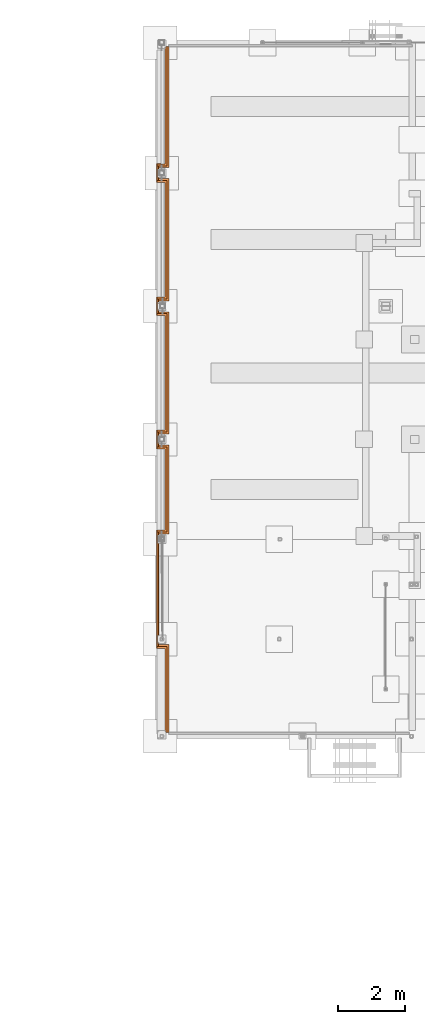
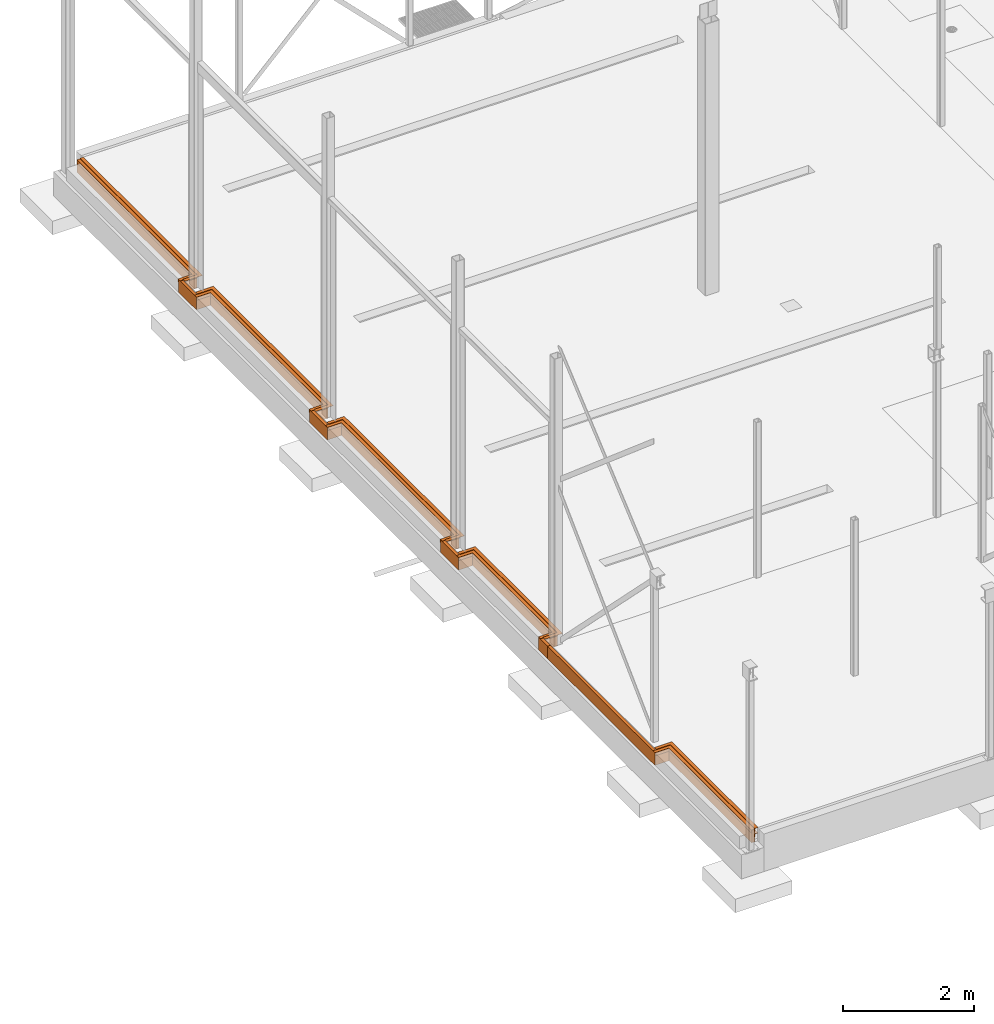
# One storey, part 18 of 18: 13 proxies.
"""IFC2X3 building model written with IfcOpenShell, lengths in millimetres."""

from ifc_helpers import new_model, entity, si_unit, converted_unit, derived_unit, direction, frame, origin, place, context, subcontext, project, spatial, faceted_brep, element, save


model = new_model("IFC2X3")

# Units and contexts
model_context = context("Model", 3, precision=0.01, world=origin(), true_north=direction((6.12303176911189e-17, 1.0)))
body_context = subcontext(model_context, "Body", "Model", "MODEL_VIEW")
ifc_project = project(units=[si_unit("LENGTHUNIT", "METRE", prefix="MILLI"), si_unit("AREAUNIT", "SQUARE_METRE"), si_unit("VOLUMEUNIT", "CUBIC_METRE"), converted_unit("PLANEANGLEUNIT", "DEGREE", entity("IfcRatioMeasure", 0.0174532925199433), si_unit("PLANEANGLEUNIT", "RADIAN"), dimensions=[0, 0, 0, 0, 0, 0, 0]), si_unit("MASSUNIT", "GRAM", prefix="KILO"), derived_unit("MASSDENSITYUNIT", [(si_unit("MASSUNIT", "GRAM", prefix="KILO"), 1), (si_unit("LENGTHUNIT", "METRE"), -3)]), si_unit("TIMEUNIT", "SECOND"), si_unit("FREQUENCYUNIT", "HERTZ"), si_unit("THERMODYNAMICTEMPERATUREUNIT", "DEGREE_CELSIUS"), derived_unit("THERMALTRANSMITTANCEUNIT", [(si_unit("MASSUNIT", "GRAM", prefix="KILO"), 1), (si_unit("THERMODYNAMICTEMPERATUREUNIT", "KELVIN"), -1), (si_unit("TIMEUNIT", "SECOND"), -3)]), derived_unit("VOLUMETRICFLOWRATEUNIT", [(si_unit("LENGTHUNIT", "METRE"), 3), (si_unit("TIMEUNIT", "SECOND"), -1)]), si_unit("ELECTRICCURRENTUNIT", "AMPERE"), si_unit("ELECTRICVOLTAGEUNIT", "VOLT"), si_unit("POWERUNIT", "WATT"), si_unit("FORCEUNIT", "NEWTON", prefix="KILO"), si_unit("ILLUMINANCEUNIT", "LUX"), si_unit("LUMINOUSFLUXUNIT", "LUMEN"), si_unit("LUMINOUSINTENSITYUNIT", "CANDELA"), derived_unit("USERDEFINED", [(si_unit("MASSUNIT", "GRAM", prefix="KILO"), -1), (si_unit("LENGTHUNIT", "METRE"), -2), (si_unit("TIMEUNIT", "SECOND"), 3), (si_unit("LUMINOUSFLUXUNIT", "LUMEN"), 1)]), derived_unit("LINEARVELOCITYUNIT", [(si_unit("LENGTHUNIT", "METRE"), 1), (si_unit("TIMEUNIT", "SECOND"), -1)]), si_unit("PRESSUREUNIT", "PASCAL"), derived_unit("USERDEFINED", [(si_unit("LENGTHUNIT", "METRE"), -2), (si_unit("MASSUNIT", "GRAM", prefix="KILO"), 1), (si_unit("TIMEUNIT", "SECOND"), -2)])], contexts=[model_context])

# Site, building, storey
site_placement = place(None, frame((0.0, 0.0, 101000.0)))
site = spatial("IfcSite", under=ifc_project, at=site_placement, Name="Default", CompositionType="ELEMENT")
building_placement = place(site_placement, origin())
building = spatial("IfcBuilding", under=site, at=building_placement, CompositionType="ELEMENT")
storey_placement = place(building_placement, origin())
storey = spatial("IfcBuildingStorey", under=building, at=storey_placement, Name="01", CompositionType="ELEMENT", Elevation=8.9295595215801e-10)

# Proxies
proxy_1_placement = place(storey_placement, frame((3610.98233689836, 29417.9507529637, -250.0)))
element("IfcBuildingElementProxy", 1, at=proxy_1_placement, inside=storey, Name="Slab Edge:50x235", ObjectType="Slab Edge:50x235", context=body_context, shape_type="Brep", body=[
    faceted_brep([(50.0, 3225.0, 235.0), (0.0, 3275.0, 235.0), (0.0, 2725.0, 235.0), (50.0, 2775.0, 235.0), (50.0, 2775.0, 190.0), (50.0, 2775.0, 90.0), (50.0, 2775.0, 0.0), (50.0, 3225.0, 0.0), (50.0, 3225.0, 90.0), (50.0, 3225.0, 190.0), (0.0, 3275.0, 0.0), (0.0, 2725.0, 0.0), (50.0, 7225.0, 235.0), (0.0, 7275.0, 235.0), (0.0, 6725.0, 235.0), (50.0, 6775.0, 235.0), (50.0, 6775.0, 190.0), (50.0, 6775.0, 90.0), (50.0, 6775.0, 0.0), (50.0, 7225.0, 0.0), (50.0, 7225.0, 90.0), (50.0, 7225.0, 190.0), (0.0, 7275.0, 0.0), (0.0, 6725.0, 0.0), (300.282160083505, 225.0, 235.0), (250.282160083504, 275.0, 235.0), (0.0, 275.0, 235.0), (50.0, 225.0, 235.0), (50.0, 225.0, 190.0), (50.0, 225.0, 90.0), (50.0, 225.0, 0.0), (300.2821600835, 225.0, 0.0), (300.282160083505, 225.0, 90.0), (300.282160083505, 225.0, 190.0), (250.282160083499, 275.0, 0.0), (0.0, 275.0, 0.0), (250.282160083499, 2725.0, 235.0), (300.282160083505, 2775.0, 235.0), (300.282160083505, 2775.0, 190.0), (300.282160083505, 2775.0, 90.0), (300.282160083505, 2775.0, 0.0), (250.282160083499, 2725.0, 0.0), (300.2821600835, 3225.0, 235.0), (250.282160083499, 3275.0, 235.0), (300.282160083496, 3225.0, 0.0), (300.2821600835, 3225.0, 90.0), (300.2821600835, 3225.0, 190.0), (250.282160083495, 3275.0, 0.0), (300.2821600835, 6775.0, 235.0), (250.2821600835, 6725.0, 235.0), (300.282160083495, 6775.0, 0.0), (300.2821600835, 6775.0, 90.0), (300.2821600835, 6775.0, 190.0), (250.282160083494, 6725.0, 0.0), (300.282160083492, 7225.0, 235.0), (250.282160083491, 7275.0, 235.0), (300.282160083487, 7225.0, 0.0), (300.282160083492, 7225.0, 90.0), (300.282160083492, 7225.0, 190.0), (250.282160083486, 7275.0, 0.0), (300.282160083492, 10775.0, 235.0), (250.282160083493, 10725.0, 235.0), (300.282160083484, 10775.0, 0.0), (300.282160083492, 10775.0, 90.0), (300.282160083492, 10775.0, 190.0), (250.282160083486, 10725.0, 0.0), (50.0, 10775.0, 235.0), (0.0, 10725.0, 235.0), (50.0, 10775.0, 0.0), (50.0, 10775.0, 90.0), (50.0, 10775.0, 190.0), (0.0, 10725.0, 0.0), (50.0, 11225.0, 235.0), (0.0, 11275.0, 235.0), (50.0, 11225.0, 0.0), (50.0, 11225.0, 90.0), (50.0, 11225.0, 190.0), (0.0, 11275.0, 0.0), (300.282160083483, 11225.0, 235.0), (250.282160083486, 11275.0, 235.0), (300.282160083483, 11225.0, 0.0), (300.282160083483, 11225.0, 90.0), (300.282160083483, 11225.0, 190.0), (250.282160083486, 11275.0, 0.0), (250.282160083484, 14800.0, 235.0), (300.282160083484, 14800.0, 235.0), (300.282160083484, 14800.0, 190.0), (300.282160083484, 14800.0, 90.0), (300.282160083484, 14800.0, 0.0), (250.282160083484, 14800.0, 0.0), (50.0, 0.0, 235.0), (0.0, 0.0, 235.0), (0.0, 0.0, 0.0), (50.0, 0.0, 0.0), (50.0, 0.0, 90.0)], [[[0, 1, 2, 3]], [[0, 3, 4, 5, 6, 7, 8, 9]], [[10, 7, 6, 11]], [[1, 10, 11, 2]], [[12, 13, 14, 15]], [[12, 15, 16, 17, 18, 19, 20, 21]], [[22, 19, 18, 23]], [[13, 22, 23, 14]], [[24, 25, 26, 27]], [[24, 27, 28, 29, 30, 31, 32, 33]], [[34, 31, 30, 35]], [[25, 34, 35, 26]], [[3, 2, 36, 37]], [[3, 37, 38, 39, 40, 6, 5, 4]], [[11, 6, 40, 41]], [[2, 11, 41, 36]], [[1, 0, 42, 43]], [[42, 0, 9, 8, 7, 44, 45, 46]], [[7, 10, 47, 44]], [[10, 1, 43, 47]], [[43, 42, 48, 49]], [[48, 42, 46, 45, 44, 50, 51, 52]], [[44, 47, 53, 50]], [[47, 43, 49, 53]], [[49, 48, 15, 14]], [[15, 48, 52, 51, 50, 18, 17, 16]], [[50, 53, 23, 18]], [[53, 49, 14, 23]], [[13, 12, 54, 55]], [[54, 12, 21, 20, 19, 56, 57, 58]], [[19, 22, 59, 56]], [[22, 13, 55, 59]], [[55, 54, 60, 61]], [[60, 54, 58, 57, 56, 62, 63, 64]], [[56, 59, 65, 62]], [[59, 55, 61, 65]], [[61, 60, 66, 67]], [[66, 60, 64, 63, 62, 68, 69, 70]], [[62, 65, 71, 68]], [[65, 61, 67, 71]], [[67, 66, 72, 73]], [[72, 66, 70, 69, 68, 74, 75, 76]], [[68, 71, 77, 74]], [[71, 67, 73, 77]], [[73, 72, 78, 79]], [[78, 72, 76, 75, 74, 80, 81, 82]], [[74, 77, 83, 80]], [[77, 73, 79, 83]], [[84, 85, 86, 87, 88, 89]], [[79, 78, 85, 84]], [[85, 78, 82, 81, 80, 88, 87, 86]], [[80, 83, 89, 88]], [[83, 79, 84, 89]], [[25, 24, 37, 36]], [[37, 24, 33, 32, 31, 40, 39, 38]], [[31, 34, 41, 40]], [[34, 25, 36, 41]], [[90, 91, 92, 93, 94]], [[27, 26, 91, 90]], [[27, 90, 94, 93, 30, 29, 28]], [[35, 30, 93, 92]], [[26, 35, 92, 91]]]),
])
proxy_2_placement = place(storey_placement, frame((3610.98233689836, 36638.9507529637, -69.0)))
element("IfcBuildingElementProxy", 2, at=proxy_2_placement, inside=storey, Name="Slab Edge:L-PROFIL", ObjectType="Slab Edge:L-PROFIL", context=body_context, shape_type="Brep", body=[
    faceted_brep([(0.0, 3498.0, 60.0), (0.0, 3558.0, 60.0), (0.0, 3558.0, 55.0), (0.0, 3503.0, 55.0), (0.0, 3503.0, 0.0), (0.0, 3498.0, 0.0), (244.282160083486, 3498.0, 0.0), (244.282160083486, 3498.0, 60.0), (249.282160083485, 3503.0, 0.0), (249.282160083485, 3503.0, 55.0), (304.28216008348, 3558.0, 55.0), (304.282160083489, 3558.0, 60.0), (244.282160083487, 60.0, 60.0), (304.282160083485, 0.0, 60.0), (304.28216008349, 0.0, 55.0), (249.282160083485, 55.0, 55.0), (249.282160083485, 55.0, 0.0), (244.282160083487, 60.0, 0.0), (0.0, 60.0, 60.0), (0.0, 60.0, 0.0), (0.0, 55.0, 0.0), (0.0, 55.0, 55.0), (0.0, 0.0, 55.0), (0.0, 0.0, 60.0)], [[[0, 1, 2, 3, 4, 5]], [[0, 5, 6, 7]], [[5, 4, 8, 6]], [[4, 3, 9, 8]], [[3, 2, 10, 9]], [[2, 1, 11, 10]], [[1, 0, 7, 11]], [[11, 7, 12, 13]], [[10, 11, 13, 14]], [[9, 10, 14, 15]], [[8, 9, 15, 16]], [[6, 8, 16, 17]], [[7, 6, 17, 12]], [[18, 19, 20, 21, 22, 23]], [[13, 12, 18, 23]], [[14, 13, 23, 22]], [[15, 14, 22, 21]], [[16, 15, 21, 20]], [[17, 16, 20, 19]], [[12, 17, 19, 18]]]),
])
proxy_3_placement = place(storey_placement, frame((3660.98233689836, 36582.9507529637, -60.0)))
element("IfcBuildingElementProxy", 3, at=proxy_3_placement, inside=storey, Name="Slab Edge:L-PROFIL", ObjectType="Slab Edge:L-PROFIL", context=body_context, shape_type="Brep", body=[
    faceted_brep([(250.282160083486, 3610.0, 60.0), (250.282160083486, 3610.0, 0.0), (250.282160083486, 60.0, 0.0), (250.282160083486, 60.0, 60.0), (255.282160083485, 3615.0, 0.0), (255.282160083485, 55.0, 0.0), (255.282160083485, 3615.0, 55.0), (255.282160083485, 55.0, 55.0), (310.282160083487, 3670.0, 55.0), (310.282160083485, 0.0, 55.0), (310.282160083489, 3670.0, 59.2131428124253), (310.282160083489, 3670.0, 60.0), (310.282160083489, 0.0, 60.0), (310.282160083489, 0.0, 59.2131428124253), (0.0, 60.0, 60.0), (0.0, 60.0, 0.0), (0.0, 55.0, 0.0), (0.0, 55.0, 55.0), (0.0, 0.0, 55.0), (0.0, 0.0, 60.0), (250.282160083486, 0.0, 60.0), (0.0, 3610.0, 60.0), (0.0, 3670.0, 60.0), (0.0, 3670.0, 55.0), (0.0, 3615.0, 55.0), (0.0, 3615.0, 0.0), (0.0, 3610.0, 0.0), (250.282160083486, 3670.0, 60.0)], [[[0, 1, 2, 3]], [[1, 4, 5, 2]], [[4, 6, 7, 5]], [[6, 8, 9, 7]], [[8, 10, 11, 12, 13, 9]], [[11, 0, 3, 12]], [[14, 15, 16, 17, 18, 19]], [[12, 3, 14, 19, 20]], [[9, 13, 12, 20, 19, 18]], [[7, 9, 18, 17]], [[5, 7, 17, 16]], [[2, 5, 16, 15]], [[3, 2, 15, 14]], [[21, 22, 23, 24, 25, 26]], [[22, 21, 0, 11, 27]], [[23, 22, 27, 11, 10, 8]], [[24, 23, 8, 6]], [[25, 24, 6, 4]], [[26, 25, 4, 1]], [[21, 26, 1, 0]]]),
])
proxy_4_placement = place(storey_placement, frame((3660.98233689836, 40582.9507529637, -60.0)))
element("IfcBuildingElementProxy", 4, at=proxy_4_placement, inside=storey, Name="Slab Edge:L-PROFIL", ObjectType="Slab Edge:L-PROFIL", context=body_context, shape_type="Brep", body=[
    faceted_brep([(250.282160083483, 3635.0, 60.0), (310.282160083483, 3635.0, 60.0), (310.282160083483, 3635.0, 55.0), (255.282160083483, 3635.0, 55.0), (255.282160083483, 3635.0, 0.0), (250.282160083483, 3635.0, 0.0), (250.282160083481, 60.0, 0.0), (250.282160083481, 60.0, 60.0), (255.282160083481, 55.0, 0.0), (255.282160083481, 55.0, 55.0), (310.282160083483, 0.0, 55.0), (310.282160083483, 0.0, 60.0), (310.282160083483, 0.0, 59.2131428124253), (0.0, 60.0, 60.0), (0.0, 60.0, 0.0), (0.0, 55.0, 0.0), (0.0, 55.0, 55.0), (0.0, 0.0, 55.0), (0.0, 0.0, 60.0), (250.282160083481, 0.0, 60.0)], [[[0, 1, 2, 3, 4, 5]], [[0, 5, 6, 7]], [[5, 4, 8, 6]], [[4, 3, 9, 8]], [[3, 2, 10, 9]], [[2, 1, 11, 12, 10]], [[1, 0, 7, 11]], [[13, 14, 15, 16, 17, 18]], [[11, 7, 13, 18, 19]], [[10, 12, 11, 19, 18, 17]], [[9, 10, 17, 16]], [[8, 9, 16, 15]], [[6, 8, 15, 14]], [[7, 6, 14, 13]]]),
])
proxy_5_placement = place(storey_placement, frame((3610.98233689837, 40638.9507529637, -69.0)))
element("IfcBuildingElementProxy", 5, at=proxy_5_placement, inside=storey, Name="Slab Edge:L-PROFIL", ObjectType="Slab Edge:L-PROFIL", context=body_context, shape_type="Brep", body=[
    faceted_brep([(244.282160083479, 3579.0, 60.0), (304.282160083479, 3579.0, 60.0), (304.282160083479, 3579.0, 55.0), (249.282160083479, 3579.0, 55.0), (249.282160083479, 3579.0, 0.0), (244.282160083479, 3579.0, 0.0), (244.282160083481, 60.0, 0.0), (244.282160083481, 60.0, 60.0), (249.282160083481, 55.0, 0.0), (249.282160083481, 55.0, 55.0), (304.282160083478, 0.0, 55.0), (304.282160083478, 0.0, 60.0), (0.0, 60.0, 60.0), (0.0, 60.0, 0.0), (0.0, 55.0, 0.0), (0.0, 55.0, 55.0), (0.0, 0.0, 55.0), (0.0, 0.0, 60.0)], [[[0, 1, 2, 3, 4, 5]], [[0, 5, 6, 7]], [[5, 4, 8, 6]], [[4, 3, 9, 8]], [[3, 2, 10, 9]], [[2, 1, 11, 10]], [[1, 0, 7, 11]], [[12, 13, 14, 15, 16, 17]], [[11, 7, 12, 17]], [[10, 11, 17, 16]], [[9, 10, 16, 15]], [[8, 9, 15, 14]], [[6, 8, 14, 13]], [[7, 6, 13, 12]]]),
])
proxy_6_placement = place(storey_placement, frame((3610.98233689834, 23617.9507529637, -250.0)))
element("IfcBuildingElementProxy", 6, at=proxy_6_placement, inside=storey, Name="Slab Edge:50x235", ObjectType="Slab Edge:50x235", context=body_context, shape_type="Brep", body=[
    faceted_brep([(0.0, 5800.0, 235.0), (50.0, 5800.0, 235.0), (50.0, 5800.0, 150.0), (50.0, 5800.0, 0.0), (0.0, 5800.0, 0.0), (0.0, 2525.0, 235.0), (50.0, 2575.0, 235.0), (50.0, 2575.0, 190.0), (50.0, 2575.0, 150.0), (50.0, 2575.0, 0.0), (0.0, 2525.0, 0.0), (250.282160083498, 2525.0, 235.0), (300.282160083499, 2575.0, 235.0), (300.282160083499, 2575.0, 190.0), (300.282160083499, 2575.0, 150.0), (300.282160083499, 2575.0, 0.0), (250.282160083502, 2525.0, 0.0), (300.282160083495, 0.0, 235.0), (250.282160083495, 0.0, 235.0), (250.282160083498, 0.0, 0.0), (300.282160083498, 0.0, 0.0), (300.282160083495, 0.0, 150.0), (300.282160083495, 0.0, 190.0)], [[[0, 1, 2, 3, 4]], [[1, 0, 5, 6]], [[1, 6, 7, 8, 9, 3, 2]], [[4, 3, 9, 10]], [[0, 4, 10, 5]], [[6, 5, 11, 12]], [[6, 12, 13, 14, 15, 9, 8, 7]], [[10, 9, 15, 16]], [[5, 10, 16, 11]], [[17, 18, 19, 20, 21, 22]], [[12, 11, 18, 17]], [[12, 17, 22, 21, 20, 15, 14, 13]], [[16, 15, 20, 19]], [[11, 16, 19, 18]]]),
])
proxy_7_placement = place(storey_placement, frame((3610.98233689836, 32638.9507529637, -69.0)))
element("IfcBuildingElementProxy", 7, at=proxy_7_placement, inside=storey, Name="Slab Edge:L-PROFIL", ObjectType="Slab Edge:L-PROFIL", context=body_context, shape_type="Brep", body=[
    faceted_brep([(0.0, 3498.0, 60.0), (0.0, 3558.0, 60.0), (0.0, 3558.0, 55.0), (0.0, 3503.0, 55.0), (0.0, 3503.0, 0.0), (0.0, 3498.0, 0.0), (244.282160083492, 3498.0, 0.0), (244.282160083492, 3498.0, 60.0), (249.282160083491, 3503.0, 0.0), (249.282160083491, 3503.0, 55.0), (304.282160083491, 3558.0, 55.0), (304.282160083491, 3558.0, 60.0), (244.282160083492, 60.0, 60.0), (304.282160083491, 0.0, 60.0), (304.282160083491, 0.0, 55.0), (249.282160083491, 55.0, 55.0), (249.282160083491, 55.0, 0.0), (244.282160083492, 60.0, 0.0), (0.0, 60.0, 60.0), (0.0, 60.0, 0.0), (0.0, 55.0, 0.0), (0.0, 55.0, 55.0), (0.0, 0.0, 55.0), (0.0, 0.0, 60.0)], [[[0, 1, 2, 3, 4, 5]], [[0, 5, 6, 7]], [[5, 4, 8, 6]], [[4, 3, 9, 8]], [[3, 2, 10, 9]], [[2, 1, 11, 10]], [[1, 0, 7, 11]], [[11, 7, 12, 13]], [[10, 11, 13, 14]], [[9, 10, 14, 15]], [[8, 9, 15, 16]], [[6, 8, 16, 17]], [[7, 6, 17, 12]], [[18, 19, 20, 21, 22, 23]], [[13, 12, 18, 23]], [[14, 13, 23, 22]], [[15, 14, 22, 21]], [[16, 15, 21, 20]], [[17, 16, 20, 19]], [[12, 17, 19, 18]]]),
])
proxy_8_placement = place(storey_placement, frame((3610.98233689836, 29638.9507529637, -69.0)))
element("IfcBuildingElementProxy", 8, at=proxy_8_placement, inside=storey, Name="Slab Edge:L-PROFIL", ObjectType="Slab Edge:L-PROFIL", context=body_context, shape_type="Brep", body=[
    faceted_brep([(0.0, 2498.0, 60.0), (0.0, 2558.0, 60.0), (0.0, 2558.0, 55.0), (0.0, 2503.0, 55.0), (0.0, 2503.0, 0.0), (0.0, 2498.0, 0.0), (244.282160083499, 2498.0, 0.0), (244.282160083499, 2498.0, 60.0), (249.282160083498, 2503.0, 0.0), (249.282160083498, 2503.0, 55.0), (304.282160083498, 2558.0, 55.0), (304.282160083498, 2558.0, 60.0), (244.2821600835, 60.0, 60.0), (304.282160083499, 0.0, 60.0), (304.282160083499, 0.0, 55.0), (249.282160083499, 55.0, 55.0), (249.282160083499, 55.0, 0.0), (244.2821600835, 60.0, 0.0), (0.0, 60.0, 60.0), (0.0, 60.0, 0.0), (0.0, 55.0, 0.0), (0.0, 55.0, 55.0), (0.0, 0.0, 55.0), (0.0, 0.0, 60.0)], [[[0, 1, 2, 3, 4, 5]], [[0, 5, 6, 7]], [[5, 4, 8, 6]], [[4, 3, 9, 8]], [[3, 2, 10, 9]], [[2, 1, 11, 10]], [[1, 0, 7, 11]], [[11, 7, 12, 13]], [[10, 11, 13, 14]], [[9, 10, 14, 15]], [[8, 9, 15, 16]], [[6, 8, 16, 17]], [[7, 6, 17, 12]], [[18, 19, 20, 21, 22, 23]], [[13, 12, 18, 23]], [[14, 13, 23, 22]], [[15, 14, 22, 21]], [[16, 15, 21, 20]], [[17, 16, 20, 19]], [[12, 17, 19, 18]]]),
])
proxy_9_placement = place(storey_placement, frame((3660.98233689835, 32582.9507529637, -60.0)))
element("IfcBuildingElementProxy", 9, at=proxy_9_placement, inside=storey, Name="Slab Edge:L-PROFIL", ObjectType="Slab Edge:L-PROFIL", context=body_context, shape_type="Brep", body=[
    faceted_brep([(0.0, 3610.0, 60.0), (0.0, 3670.0, 60.0), (0.0, 3670.0, 55.0), (0.0, 3615.0, 55.0), (0.0, 3615.0, 0.0), (0.0, 3610.0, 0.0), (250.28216008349, 3610.0, 0.0), (250.28216008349, 3610.0, 60.0), (255.282160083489, 3615.0, 0.0), (255.282160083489, 3615.0, 55.0), (310.282160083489, 3670.0, 55.0), (250.28216008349, 3670.0, 60.0), (310.282160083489, 3670.0, 60.0), (310.282160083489, 3670.0, 59.2131428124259), (250.28216008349, 60.0, 60.0), (310.282160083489, 0.0, 60.0), (310.282160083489, 0.0, 59.2131428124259), (310.282160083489, 0.0, 55.0), (255.282160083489, 55.0, 55.0), (255.282160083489, 55.0, 0.0), (250.28216008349, 60.0, 0.0), (0.0, 60.0, 60.0), (0.0, 60.0, 0.0), (0.0, 55.0, 0.0), (0.0, 55.0, 55.0), (0.0, 0.0, 55.0), (0.0, 0.0, 60.0), (250.28216008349, 0.0, 60.0)], [[[0, 1, 2, 3, 4, 5]], [[0, 5, 6, 7]], [[5, 4, 8, 6]], [[4, 3, 9, 8]], [[3, 2, 10, 9]], [[2, 1, 11, 12, 13, 10]], [[1, 0, 7, 12, 11]], [[12, 7, 14, 15]], [[10, 13, 12, 15, 16, 17]], [[9, 10, 17, 18]], [[8, 9, 18, 19]], [[6, 8, 19, 20]], [[7, 6, 20, 14]], [[21, 22, 23, 24, 25, 26]], [[15, 14, 21, 26, 27]], [[17, 16, 15, 27, 26, 25]], [[18, 17, 25, 24]], [[19, 18, 24, 23]], [[20, 19, 23, 22]], [[14, 20, 22, 21]]]),
])
proxy_10_placement = place(storey_placement, frame((3660.98233689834, 29582.9507529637, -60.0)))
element("IfcBuildingElementProxy", 10, at=proxy_10_placement, inside=storey, Name="Slab Edge:L-PROFIL", ObjectType="Slab Edge:L-PROFIL", context=body_context, shape_type="Brep", body=[
    faceted_brep([(250.282160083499, 2610.0, 60.0), (250.282160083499, 2610.0, 0.0), (250.282160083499, 60.0, 0.0), (250.282160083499, 60.0, 60.0), (255.282160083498, 2615.0, 0.0), (255.282160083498, 55.0, 0.0), (255.282160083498, 2615.0, 55.0), (255.282160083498, 55.0, 55.0), (310.282160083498, 2670.0, 55.0), (310.282160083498, 0.0, 55.0), (310.282160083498, 2670.0, 59.2131428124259), (310.282160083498, 2670.0, 60.0), (310.282160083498, 58.1443298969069, 60.0), (310.282160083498, 0.0, 60.0), (0.0, 60.0, 60.0), (0.0, 60.0, 0.0), (0.0, 55.0, 0.0), (0.0, 55.0, 55.0), (0.0, 0.0, 55.0), (0.0, 0.0, 60.0), (0.0, 2610.0, 60.0), (0.0, 2670.0, 60.0), (0.0, 2670.0, 55.0), (0.0, 2615.0, 55.0), (0.0, 2615.0, 0.0), (0.0, 2610.0, 0.0), (250.282160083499, 2670.0, 60.0)], [[[0, 1, 2, 3]], [[1, 4, 5, 2]], [[4, 6, 7, 5]], [[6, 8, 9, 7]], [[8, 10, 11, 12, 13, 9]], [[11, 0, 3, 13, 12]], [[14, 15, 16, 17, 18, 19]], [[13, 3, 14, 19]], [[9, 13, 19, 18]], [[7, 9, 18, 17]], [[5, 7, 17, 16]], [[2, 5, 16, 15]], [[3, 2, 15, 14]], [[20, 21, 22, 23, 24, 25]], [[21, 20, 0, 11, 26]], [[22, 21, 26, 11, 10, 8]], [[23, 22, 8, 6]], [[24, 23, 6, 4]], [[25, 24, 4, 1]], [[20, 25, 1, 0]]]),
])
proxy_11_placement = place(storey_placement, frame((3660.98233689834, 23617.9507529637, -60.0)))
element("IfcBuildingElementProxy", 11, at=proxy_11_placement, inside=storey, Name="Slab Edge:L-PROFIL", ObjectType="Slab Edge:L-PROFIL", context=body_context, shape_type="Brep", body=[
    faceted_brep([(250.282160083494, 0.0, 60.0), (250.282160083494, 0.0, 0.0), (255.282160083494, 0.0, 0.0), (255.282160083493, 0.0, 55.0), (310.282160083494, 0.0, 55.0), (310.282160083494, 0.0, 60.0), (250.282160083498, 2575.0, 60.0), (250.282160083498, 2575.0, 0.0), (255.2821600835, 2580.0, 0.0), (255.282160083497, 2580.0, 55.0), (310.282160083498, 2635.0, 55.0), (310.282160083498, 2635.0, 60.0), (0.0, 2575.0, 60.0), (0.0, 2635.0, 60.0), (0.0, 2635.0, 55.0), (0.0, 2580.0, 55.0), (0.0, 2580.0, 0.0), (0.0, 2575.0, 0.0)], [[[0, 1, 2, 3, 4, 5]], [[6, 7, 1, 0]], [[7, 8, 2, 1]], [[8, 9, 3, 2]], [[9, 10, 4, 3]], [[10, 11, 5, 4]], [[11, 6, 0, 5]], [[12, 13, 14, 15, 16, 17]], [[13, 12, 6, 11]], [[14, 13, 11, 10]], [[15, 14, 10, 9]], [[16, 15, 9, 8]], [[17, 16, 8, 7]], [[12, 17, 7, 6]]]),
])
proxy_12_placement = place(storey_placement, frame((3610.98233689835, 23617.9507529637, -69.0)))
element("IfcBuildingElementProxy", 12, at=proxy_12_placement, inside=storey, Name="Slab Edge:L-PROFIL", ObjectType="Slab Edge:L-PROFIL", context=body_context, shape_type="Brep", body=[
    faceted_brep([(0.0, 2519.0, 60.0), (0.0, 2579.0, 60.0), (0.0, 2579.0, 55.0), (0.0, 2524.0, 55.0), (0.0, 2524.0, 0.0), (0.0, 2519.0, 0.0), (244.282160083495, 2519.0, 0.0), (244.2821600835, 2519.0, 60.0), (249.282160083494, 2524.0, 0.0), (249.282160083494, 2524.0, 55.0), (304.282160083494, 2579.0, 55.0), (304.282160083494, 2579.0, 60.0), (244.282160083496, 0.0, 60.0), (244.282160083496, 0.0, 0.0), (249.282160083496, 0.0, 0.0), (249.282160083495, 0.0, 55.0), (304.282160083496, 0.0, 55.0), (304.282160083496, 0.0, 60.0)], [[[0, 1, 2, 3, 4, 5]], [[0, 5, 6, 7]], [[5, 4, 8, 6]], [[4, 3, 9, 8]], [[3, 2, 10, 9]], [[2, 1, 11, 10]], [[1, 0, 7, 11]], [[12, 13, 14, 15, 16, 17]], [[11, 7, 12, 17]], [[10, 11, 17, 16]], [[9, 10, 16, 15]], [[8, 9, 15, 14]], [[6, 8, 14, 13]], [[7, 6, 13, 12]]]),
])
proxy_13_placement = place(storey_placement, frame((3660.98233689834, 23617.9507529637, -160.0)))
element("IfcBuildingElementProxy", 13, at=proxy_13_placement, inside=storey, Name="Slab Edge:L-PROFIL", ObjectType="Slab Edge:L-PROFIL", context=body_context, shape_type="Brep", body=[
    faceted_brep([(250.282160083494, 0.0, 60.0), (250.282160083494, 0.0, 0.0), (255.282160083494, 0.0, 0.0), (255.282160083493, 0.0, 55.0), (310.282160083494, 0.0, 55.0), (310.282160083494, 0.0, 60.0), (250.282160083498, 2575.0, 60.0), (250.282160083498, 2575.0, 0.0), (255.2821600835, 2580.0, 0.0), (255.282160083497, 2580.0, 55.0), (310.282160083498, 2635.0, 55.0), (310.282160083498, 2635.0, 60.0), (0.0, 2575.0, 60.0), (0.0, 2635.0, 60.0), (0.0, 2635.0, 55.0), (0.0, 2580.0, 55.0), (0.0, 2580.0, 0.0), (0.0, 2575.0, 0.0)], [[[0, 1, 2, 3, 4, 5]], [[6, 7, 1, 0]], [[7, 8, 2, 1]], [[8, 9, 3, 2]], [[9, 10, 4, 3]], [[10, 11, 5, 4]], [[11, 6, 0, 5]], [[12, 13, 14, 15, 16, 17]], [[13, 12, 6, 11]], [[14, 13, 11, 10]], [[15, 14, 10, 9]], [[16, 15, 9, 8]], [[17, 16, 8, 7]], [[12, 17, 7, 6]]]),
])

save(model, "model.ifc")
